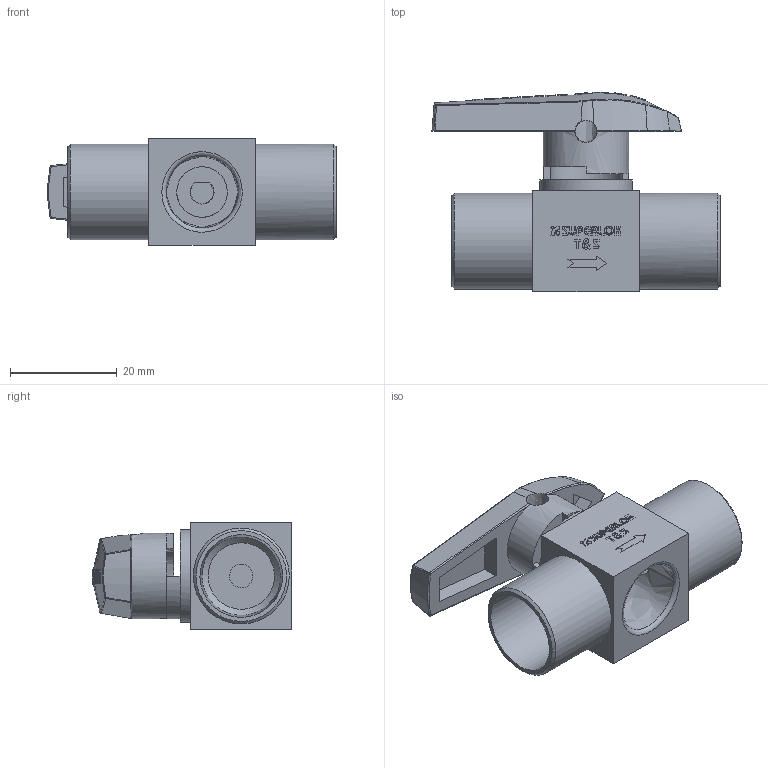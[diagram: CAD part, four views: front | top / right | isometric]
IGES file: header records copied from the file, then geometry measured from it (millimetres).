
Global section: file name: SPV131-F4N; native system: Autodesk Inventor 2016; preprocessor: unknown; author: DESIGNPC2; date: 20160502.090240; units: millimetre
Bounding box: 54.17 x 37.5 x 20.01 mm (x, y, z)
Volume: 11807.8 mm3; surface area: 8767.4 mm2
Topology: 2 solids, 2 shells, 407 faces, 1075 edges, 713 vertices
Faces by surface type: bspline 407
